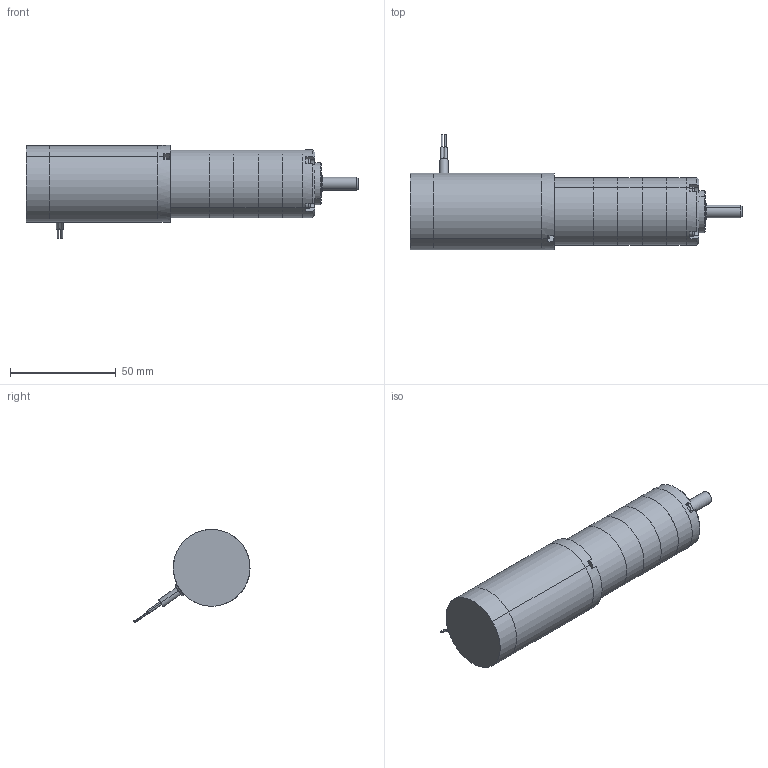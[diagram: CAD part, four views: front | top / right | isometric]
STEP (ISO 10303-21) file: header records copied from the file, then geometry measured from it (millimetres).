
FILE_DESCRIPTION (( 'STEP AP203' ), '1' );
FILE_NAME ('tm36268gp4.step', '2018-12-07T20:08:04', ( '' ), ( '' ), 'SwSTEP 2.0', 'SolidWorks 2017', '' );
FILE_SCHEMA (( 'CONFIG_CONTROL_DESIGN' ));
Length unit declared in the file: inch
Products named in the file (1): tm36268gp4
Bounding box: 156.82 x 54.82 x 44.01 mm (x, y, z)
Volume: 124523.2 mm3; surface area: 28600 mm2
Topology: 10 solids, 10 shells, 283 faces, 668 edges, 418 vertices
Faces by surface type: plane 133, cylinder 94, torus 29, cone 27
Entity records: 8177 total; most frequent: DIRECTION 1462, CARTESIAN_POINT 1458, ORIENTED_EDGE 1304, EDGE_CURVE 652, AXIS2_PLACEMENT_3D 542, VERTEX_POINT 418, LINE 378, VECTOR 378
